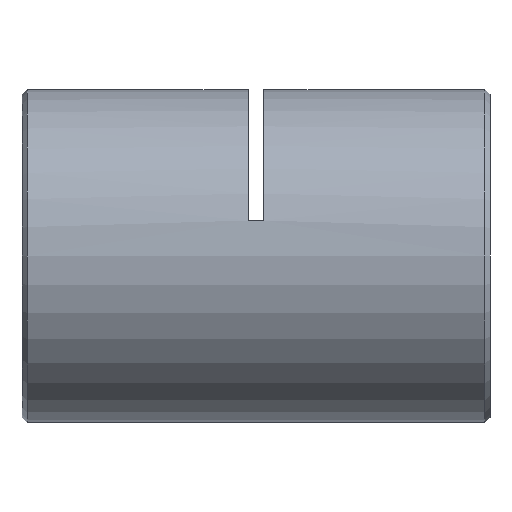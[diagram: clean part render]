
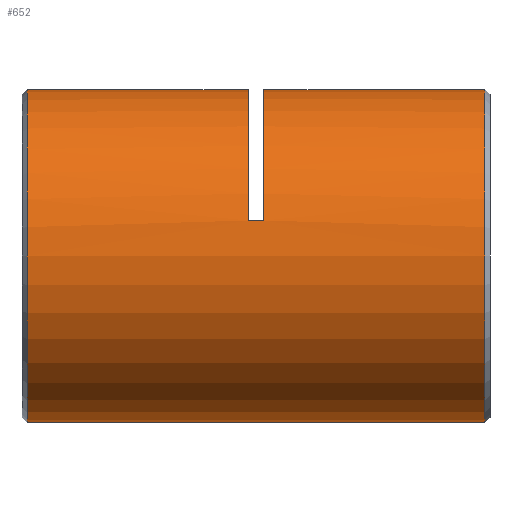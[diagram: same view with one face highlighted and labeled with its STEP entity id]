
A CAD part, left-side view. The second image highlights one B-rep face of the part: STEP entity #652.
In plain terms, the highlighted cylindrical face has radius 16 mm (diameter 32 mm), a partial arc.
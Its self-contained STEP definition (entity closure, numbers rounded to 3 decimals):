
#88 = ORIENTED_EDGE ( 'NONE', *, *, #4115, .T. ) ;
#133 = AXIS2_PLACEMENT_3D ( 'NONE', #1227, #741, #6211 ) ;
#237 = CARTESIAN_POINT ( 'NONE',  ( 0., 44.75, 16. ) ) ;
#346 = DIRECTION ( 'NONE',  ( 0., 0., 1. ) ) ;
#412 = AXIS2_PLACEMENT_3D ( 'NONE', #3367, #1461, #346 ) ;
#635 = DIRECTION ( 'NONE',  ( 0., 1., 0. ) ) ;
#636 = ORIENTED_EDGE ( 'NONE', *, *, #1036, .T. ) ;
#643 = DIRECTION ( 'NONE',  ( 0., 1., 0. ) ) ;
#652 = ADVANCED_FACE ( 'NONE', ( #2934 ), #1882, .T. ) ;
#672 = VECTOR ( 'NONE', #2278, 1000. ) ;
#690 = VERTEX_POINT ( 'NONE', #2437 ) ;
#696 = VERTEX_POINT ( 'NONE', #3836 ) ;
#741 = DIRECTION ( 'NONE',  ( 0., 1., 0. ) ) ;
#1036 = EDGE_CURVE ( 'NONE', #2033, #696, #1474, .T. ) ;
#1082 = LINE ( 'NONE', #3981, #2957 ) ;
#1227 = CARTESIAN_POINT ( 'NONE',  ( 0., 0.75, 0. ) ) ;
#1408 = CIRCLE ( 'NONE', #5013, 16. ) ;
#1461 = DIRECTION ( 'NONE',  ( 0., 1., 0. ) ) ;
#1474 = CIRCLE ( 'NONE', #1579, 16. ) ;
#1579 = AXIS2_PLACEMENT_3D ( 'NONE', #5231, #2834, #6304 ) ;
#1694 = EDGE_CURVE ( 'NONE', #5637, #2033, #6164, .T. ) ;
#1715 = DIRECTION ( 'NONE',  ( 0., 0., 1. ) ) ;
#1843 = EDGE_CURVE ( 'NONE', #4344, #690, #1862, .T. ) ;
#1862 = LINE ( 'NONE', #5701, #5317 ) ;
#1863 = CARTESIAN_POINT ( 'NONE',  ( 0., 0.75, -16. ) ) ;
#1882 = CYLINDRICAL_SURFACE ( 'NONE', #412, 16. ) ;
#2033 = VERTEX_POINT ( 'NONE', #2412 ) ;
#2256 = ORIENTED_EDGE ( 'NONE', *, *, #3024, .T. ) ;
#2278 = DIRECTION ( 'NONE',  ( 0., 1., 0. ) ) ;
#2294 = DIRECTION ( 'NONE',  ( 0., 1., 0. ) ) ;
#2300 = EDGE_CURVE ( 'NONE', #5637, #3593, #1408, .T. ) ;
#2368 = CARTESIAN_POINT ( 'NONE',  ( 0., 0., 16. ) ) ;
#2412 = CARTESIAN_POINT ( 'NONE',  ( -15.632, 23.5, 3.413 ) ) ;
#2437 = CARTESIAN_POINT ( 'NONE',  ( 0., 44.75, -16. ) ) ;
#2496 = ORIENTED_EDGE ( 'NONE', *, *, #1694, .T. ) ;
#2562 = ORIENTED_EDGE ( 'NONE', *, *, #4520, .T. ) ;
#2592 = VERTEX_POINT ( 'NONE', #2636 ) ;
#2615 = CARTESIAN_POINT ( 'NONE',  ( 0., 44.75, 0. ) ) ;
#2636 = CARTESIAN_POINT ( 'NONE',  ( 0., 0.75, 16. ) ) ;
#2745 = ORIENTED_EDGE ( 'NONE', *, *, #1843, .F. ) ;
#2834 = DIRECTION ( 'NONE',  ( 0., 1., 0. ) ) ;
#2839 = LINE ( 'NONE', #2368, #672 ) ;
#2853 = CIRCLE ( 'NONE', #6171, 16. ) ;
#2934 = FACE_OUTER_BOUND ( 'NONE', #3188, .T. ) ;
#2957 = VECTOR ( 'NONE', #635, 1000. ) ;
#3024 = EDGE_CURVE ( 'NONE', #2592, #3593, #1082, .T. ) ;
#3188 = EDGE_LOOP ( 'NONE', ( #2745, #5513, #2256, #4037, #2496, #636, #2562, #88 ) ) ;
#3367 = CARTESIAN_POINT ( 'NONE',  ( 0., 0., 0. ) ) ;
#3593 = VERTEX_POINT ( 'NONE', #4316 ) ;
#3819 = EDGE_CURVE ( 'NONE', #4344, #2592, #5057, .T. ) ;
#3836 = CARTESIAN_POINT ( 'NONE',  ( 0., 23.5, 16. ) ) ;
#3981 = CARTESIAN_POINT ( 'NONE',  ( 0., 0., 16. ) ) ;
#4037 = ORIENTED_EDGE ( 'NONE', *, *, #2300, .F. ) ;
#4085 = CARTESIAN_POINT ( 'NONE',  ( -15.632, 22.75, 3.413 ) ) ;
#4115 = EDGE_CURVE ( 'NONE', #6003, #690, #2853, .T. ) ;
#4316 = CARTESIAN_POINT ( 'NONE',  ( 0., 22., 16. ) ) ;
#4344 = VERTEX_POINT ( 'NONE', #1863 ) ;
#4520 = EDGE_CURVE ( 'NONE', #696, #6003, #2839, .T. ) ;
#4568 = DIRECTION ( 'NONE',  ( 0., -1., 0. ) ) ;
#4989 = VECTOR ( 'NONE', #643, 1000. ) ;
#5013 = AXIS2_PLACEMENT_3D ( 'NONE', #5029, #5096, #1715 ) ;
#5029 = CARTESIAN_POINT ( 'NONE',  ( 0., 22., 0. ) ) ;
#5057 = CIRCLE ( 'NONE', #133, 16. ) ;
#5096 = DIRECTION ( 'NONE',  ( 0., 1., 0. ) ) ;
#5231 = CARTESIAN_POINT ( 'NONE',  ( 0., 23.5, 0. ) ) ;
#5317 = VECTOR ( 'NONE', #2294, 1000. ) ;
#5513 = ORIENTED_EDGE ( 'NONE', *, *, #3819, .T. ) ;
#5637 = VERTEX_POINT ( 'NONE', #6222 ) ;
#5701 = CARTESIAN_POINT ( 'NONE',  ( 0., 0., -16. ) ) ;
#6003 = VERTEX_POINT ( 'NONE', #237 ) ;
#6075 = DIRECTION ( 'NONE',  ( 0., 0., -1. ) ) ;
#6164 = LINE ( 'NONE', #4085, #4989 ) ;
#6171 = AXIS2_PLACEMENT_3D ( 'NONE', #2615, #4568, #6075 ) ;
#6211 = DIRECTION ( 'NONE',  ( 0., 0., 1. ) ) ;
#6222 = CARTESIAN_POINT ( 'NONE',  ( -15.632, 22., 3.413 ) ) ;
#6304 = DIRECTION ( 'NONE',  ( 0., 0., 1. ) ) ;
